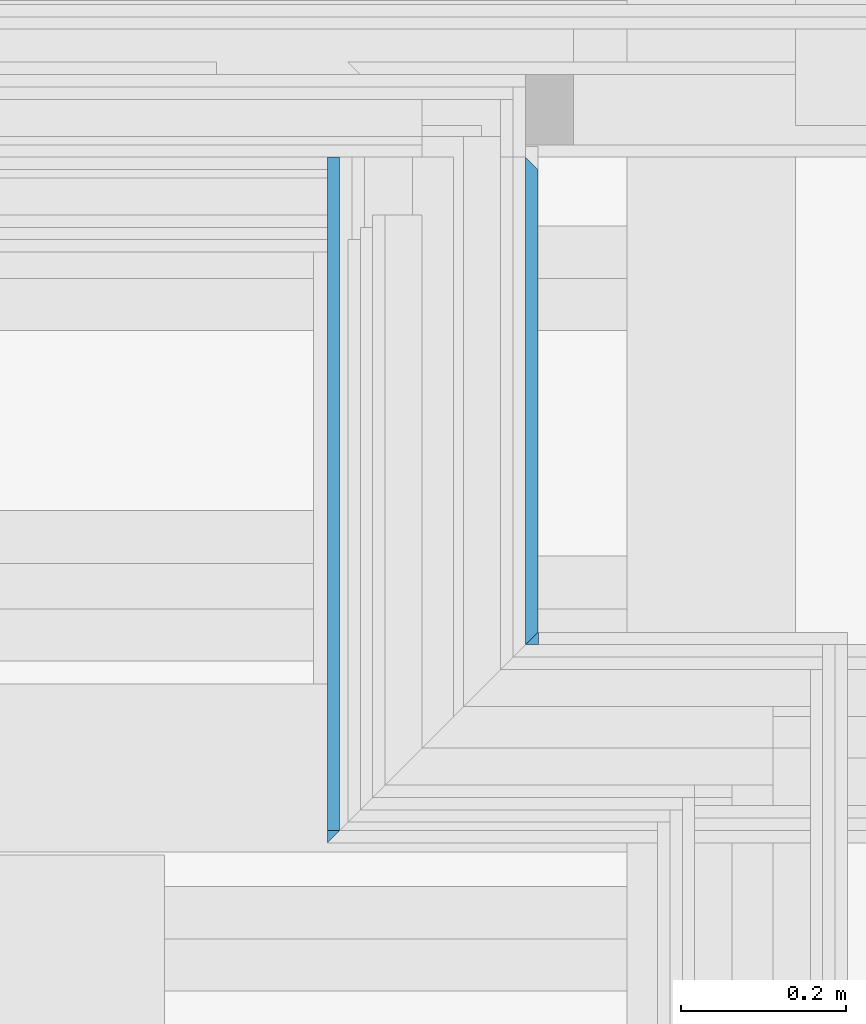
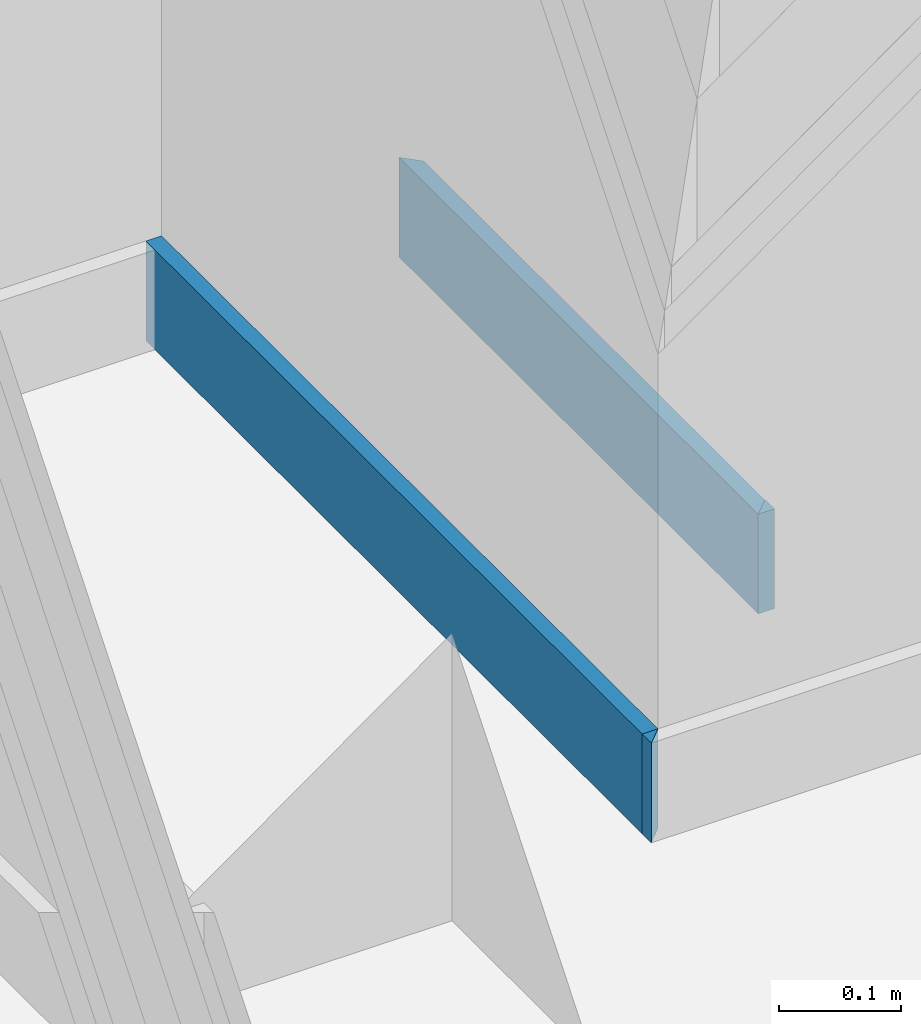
# One storey, part 68 of 183: 4 building element parts, 2 elements without a shape of their own.
"""IFC2X3 building model written with IfcOpenShell, lengths in metres."""

from ifc_helpers import new_model, entity, si_unit, converted_unit, derived_unit, money_unit, direction, frame, frame_2d, origin_with_axes, place, context, subcontext, project, spatial, polyline, rectangle, outline, extrude, material, type_object, element, aggregate, save


model = new_model("IFC2X3")

# Units and contexts
model_context = context("Model", 3, precision=1e-05, world=origin_with_axes(), true_north=direction((0.0, 1.0)))
body_context = subcontext(model_context, "Body", "Model", "MODEL_VIEW", scale=1.0)
ifc_project = project(units=[si_unit("LENGTHUNIT", "METRE"), si_unit("AREAUNIT", "SQUARE_METRE"), si_unit("VOLUMEUNIT", "CUBIC_METRE"), si_unit("ABSORBEDDOSEUNIT", "GRAY"), si_unit("AMOUNTOFSUBSTANCEUNIT", "MOLE"), si_unit("DOSEEQUIVALENTUNIT", "SIEVERT"), si_unit("ELECTRICCAPACITANCEUNIT", "FARAD"), si_unit("ELECTRICCHARGEUNIT", "COULOMB"), si_unit("ELECTRICCONDUCTANCEUNIT", "SIEMENS"), si_unit("ELECTRICCURRENTUNIT", "AMPERE"), si_unit("ELECTRICRESISTANCEUNIT", "OHM"), si_unit("ELECTRICVOLTAGEUNIT", "VOLT"), si_unit("ENERGYUNIT", "JOULE"), si_unit("FORCEUNIT", "NEWTON"), si_unit("FREQUENCYUNIT", "HERTZ"), si_unit("ILLUMINANCEUNIT", "LUX"), si_unit("INDUCTANCEUNIT", "HENRY"), si_unit("LUMINOUSFLUXUNIT", "LUMEN"), si_unit("LUMINOUSINTENSITYUNIT", "CANDELA"), si_unit("MAGNETICFLUXDENSITYUNIT", "TESLA"), si_unit("MAGNETICFLUXUNIT", "WEBER"), si_unit("MASSUNIT", "GRAM"), converted_unit("PLANEANGLEUNIT", "degree", entity("IfcReal", 0.0174532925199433), si_unit("PLANEANGLEUNIT", "RADIAN"), dimensions=[0, 0, 0, 0, 0, 0, 0]), si_unit("POWERUNIT", "WATT"), si_unit("PRESSUREUNIT", "PASCAL"), si_unit("RADIOACTIVITYUNIT", "BECQUEREL"), si_unit("SOLIDANGLEUNIT", "STERADIAN"), si_unit("THERMODYNAMICTEMPERATUREUNIT", "KELVIN"), si_unit("TIMEUNIT", "SECOND"), derived_unit("ACCELERATIONUNIT", [(si_unit("LENGTHUNIT", "METRE"), 1), (si_unit("TIMEUNIT", "SECOND"), -2)]), derived_unit("ANGULARVELOCITYUNIT", [(converted_unit("PLANEANGLEUNIT", "degree", entity("IfcReal", 0.0174532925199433), si_unit("PLANEANGLEUNIT", "RADIAN"), dimensions=[0, 0, 0, 0, 0, 0, 0]), 1), (si_unit("TIMEUNIT", "SECOND"), -1)]), derived_unit("CURVATUREUNIT", [(converted_unit("PLANEANGLEUNIT", "degree", entity("IfcReal", 0.0174532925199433), si_unit("PLANEANGLEUNIT", "RADIAN"), dimensions=[0, 0, 0, 0, 0, 0, 0]), 1), (si_unit("LENGTHUNIT", "METRE"), -1)]), derived_unit("DYNAMICVISCOSITYUNIT", [(si_unit("PRESSUREUNIT", "PASCAL"), 1), (si_unit("TIMEUNIT", "SECOND"), 1)]), derived_unit("HEATFLUXDENSITYUNIT", [(si_unit("POWERUNIT", "WATT"), 1), (si_unit("LENGTHUNIT", "METRE"), -2)]), derived_unit("HEATINGVALUEUNIT", [(si_unit("ENERGYUNIT", "JOULE"), 1), (si_unit("MASSUNIT", "GRAM"), -1)]), derived_unit("INTEGERCOUNTRATEUNIT", [(si_unit("TIMEUNIT", "SECOND"), -1)]), derived_unit("IONCONCENTRATIONUNIT", [(si_unit("MASSUNIT", "GRAM"), 1), (si_unit("VOLUMEUNIT", "CUBIC_METRE"), -1)]), derived_unit("ISOTHERMALMOISTURECAPACITYUNIT", [(si_unit("VOLUMEUNIT", "CUBIC_METRE"), 1), (si_unit("MASSUNIT", "GRAM"), -1)]), derived_unit("KINEMATICVISCOSITYUNIT", [(si_unit("AREAUNIT", "SQUARE_METRE"), 1), (si_unit("TIMEUNIT", "SECOND"), -1)]), derived_unit("LINEARFORCEUNIT", [(si_unit("FORCEUNIT", "NEWTON"), 1), (si_unit("LENGTHUNIT", "METRE"), -1)]), derived_unit("LINEARMOMENTUNIT", [(si_unit("FORCEUNIT", "NEWTON"), 1), (si_unit("LENGTHUNIT", "METRE"), -1)]), derived_unit("LINEARSTIFFNESSUNIT", [(si_unit("FORCEUNIT", "NEWTON"), 1), (si_unit("LENGTHUNIT", "METRE"), -1)]), derived_unit("LINEARVELOCITYUNIT", [(si_unit("LENGTHUNIT", "METRE"), 1), (si_unit("TIMEUNIT", "SECOND"), -1)]), derived_unit("LUMINOUSINTENSITYDISTRIBUTIONUNIT", [(si_unit("LUMINOUSINTENSITYUNIT", "CANDELA"), 1), (si_unit("LUMINOUSFLUXUNIT", "LUMEN"), -1)]), derived_unit("MASSDENSITYUNIT", [(si_unit("MASSUNIT", "GRAM"), 1), (si_unit("VOLUMEUNIT", "CUBIC_METRE"), -1)]), derived_unit("MASSFLOWRATEUNIT", [(si_unit("MASSUNIT", "GRAM"), 1), (si_unit("TIMEUNIT", "SECOND"), -1)]), derived_unit("MASSPERLENGTHUNIT", [(si_unit("MASSUNIT", "GRAM"), 1), (si_unit("LENGTHUNIT", "METRE"), -1)]), derived_unit("MODULUSOFELASTICITYUNIT", [(si_unit("FORCEUNIT", "NEWTON"), 1), (si_unit("AREAUNIT", "SQUARE_METRE"), -1)]), derived_unit("MODULUSOFLINEARSUBGRADEREACTIONUNIT", [(si_unit("FORCEUNIT", "NEWTON"), 1), (si_unit("LENGTHUNIT", "METRE"), -2)]), derived_unit("MODULUSOFROTATIONALSUBGRADEREACTIONUNIT", [(si_unit("FORCEUNIT", "NEWTON"), 1), (si_unit("LENGTHUNIT", "METRE"), 1)]), derived_unit("MODULUSOFSUBGRADEREACTIONUNIT", [(si_unit("FORCEUNIT", "NEWTON"), 1), (si_unit("VOLUMEUNIT", "CUBIC_METRE"), -1)]), derived_unit("MOISTUREDIFFUSIVITYUNIT", [(si_unit("VOLUMEUNIT", "CUBIC_METRE"), 1), (si_unit("TIMEUNIT", "SECOND"), -1)]), derived_unit("MOLECULARWEIGHTUNIT", [(si_unit("MASSUNIT", "GRAM"), 1), (si_unit("AMOUNTOFSUBSTANCEUNIT", "MOLE"), -1)]), derived_unit("PLANARFORCEUNIT", [(si_unit("FORCEUNIT", "NEWTON"), 1), (si_unit("LENGTHUNIT", "METRE"), -2)]), derived_unit("ROTATIONALFREQUENCYUNIT", [(si_unit("TIMEUNIT", "SECOND"), -1)]), derived_unit("ROTATIONALMASSUNIT", [(si_unit("MASSUNIT", "GRAM"), 1), (si_unit("LENGTHUNIT", "METRE"), 2)]), derived_unit("ROTATIONALSTIFFNESSUNIT", [(si_unit("FORCEUNIT", "NEWTON"), 1), (si_unit("LENGTHUNIT", "METRE"), 1), (converted_unit("PLANEANGLEUNIT", "degree", entity("IfcReal", 0.0174532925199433), si_unit("PLANEANGLEUNIT", "RADIAN"), dimensions=[0, 0, 0, 0, 0, 0, 0]), -1)]), derived_unit("SECTIONAREAINTEGRALUNIT", [(si_unit("LENGTHUNIT", "METRE"), 5)]), derived_unit("SECTIONMODULUSUNIT", [(si_unit("LENGTHUNIT", "METRE"), 3)]), derived_unit("SHEARMODULUSUNIT", [(si_unit("FORCEUNIT", "NEWTON"), 1), (si_unit("AREAUNIT", "SQUARE_METRE"), -1)]), derived_unit("SOUNDPOWERUNIT", [(si_unit("ENERGYUNIT", "JOULE"), 1), (si_unit("TIMEUNIT", "SECOND"), -1)]), derived_unit("SPECIFICHEATCAPACITYUNIT", [(si_unit("FORCEUNIT", "NEWTON"), 1), (si_unit("MASSUNIT", "GRAM"), -1), (si_unit("THERMODYNAMICTEMPERATUREUNIT", "KELVIN"), -1)]), derived_unit("TEMPERATUREGRADIENTUNIT", [(si_unit("THERMODYNAMICTEMPERATUREUNIT", "KELVIN"), 1), (si_unit("LENGTHUNIT", "METRE"), -1)]), derived_unit("THERMALADMITTANCEUNIT", [(si_unit("POWERUNIT", "WATT"), 1), (si_unit("AREAUNIT", "SQUARE_METRE"), -1), (si_unit("THERMODYNAMICTEMPERATUREUNIT", "KELVIN"), -1)]), derived_unit("THERMALCONDUCTANCEUNIT", [(si_unit("POWERUNIT", "WATT"), 1), (si_unit("LENGTHUNIT", "METRE"), -1), (si_unit("THERMODYNAMICTEMPERATUREUNIT", "KELVIN"), -1)]), derived_unit("THERMALEXPANSIONCOEFFICIENTUNIT", [(si_unit("THERMODYNAMICTEMPERATUREUNIT", "KELVIN"), -1)]), derived_unit("THERMALRESISTANCEUNIT", [(si_unit("AREAUNIT", "SQUARE_METRE"), 1), (si_unit("POWERUNIT", "WATT"), -1)]), derived_unit("THERMALTRANSMITTANCEUNIT", [(si_unit("POWERUNIT", "WATT"), 1), (si_unit("AREAUNIT", "SQUARE_METRE"), -1), (si_unit("THERMODYNAMICTEMPERATUREUNIT", "KELVIN"), -1)]), derived_unit("TORQUEUNIT", [(si_unit("FORCEUNIT", "NEWTON"), 1), (si_unit("LENGTHUNIT", "METRE"), 1)]), derived_unit("VAPORPERMEABILITYUNIT", [(si_unit("MASSUNIT", "GRAM"), 1), (si_unit("TIMEUNIT", "SECOND"), -1)]), derived_unit("VOLUMETRICFLOWRATEUNIT", [(si_unit("VOLUMEUNIT", "CUBIC_METRE"), 1), (si_unit("TIMEUNIT", "SECOND"), -1)]), derived_unit("WARPINGCONSTANTUNIT", [(si_unit("LENGTHUNIT", "METRE"), 6)]), derived_unit("WARPINGMOMENTUNIT", [(si_unit("FORCEUNIT", "NEWTON"), 1), (si_unit("LENGTHUNIT", "METRE"), 2)]), money_unit("GBP")], contexts=[model_context])

# Site, building, storey
site_placement = place(None, origin_with_axes())
site = spatial("IfcSite", under=ifc_project, at=site_placement, Name="Site", CompositionType="ELEMENT")
building_placement = place(site_placement, origin_with_axes())
building = spatial("IfcBuilding", under=site, at=building_placement, Name="Building01", CompositionType="ELEMENT")
storey_placement = place(building_placement, frame((0.0, 0.0, 5.15), z_axis=(0.0, 0.0, 1.0), x_axis=(1.0, 0.0, 0.0)))
storey = spatial("IfcBuildingStorey", under=building, at=storey_placement, Name="1F", CompositionType="ELEMENT", Elevation=5.15)

# Wall, building element part
wall_type = type_object("IfcWallType", Name="SHE_A-Walls_Type01c_Partywall_225mm_twin_tall", PredefinedType="NOTDEFINED")
wall_1_placement = place(storey_placement, frame((12.288, 4.302428, 0.0), z_axis=(0.0, 0.0, 1.0), x_axis=(1.0, 0.0, 0.0)))
wall_1 = element("IfcWall", 1, at=wall_1_placement, inside=storey, type_object=wall_type, Name="1C", ObjectType="SHE_A-Walls_Type01c_Partywall_225mm_twin_tall")
ifc_material = material(Name="A_BSUK_Walls_Timber")
building_element_part_1_placement = place(wall_1_placement, origin_with_axes())
building_element_part_1 = element("IfcBuildingElementPart", 2, at=building_element_part_1_placement, material=ifc_material, Name="9", context=body_context, shape_type="SweptSolid", body=[
    extrude(outline(polyline([(0.102, 0.102), (0.087, 0.087), (0.102549, 0.087), (0.102549, 0.102), (0.102, 0.102)])), frame((0.0, 0.0, 0.015), z_axis=(0.0, 0.0, 1.0), x_axis=(1.0, 0.0, 0.0)), (0.0, 0.0, 1.0), 0.1),
])
aggregate(wall_1, [building_element_part_1])

# Wall, building element parts
wall_2_placement = place(storey_placement, frame((12.288, 4.98, 0.0), z_axis=(0.0, 0.0, 1.0), x_axis=(0.0, -1.0, 0.0)))
wall_2 = element("IfcWall", 3, at=wall_2_placement, inside=storey, type_object=wall_type, Name="1C", ObjectType="SHE_A-Walls_Type01c_Partywall_225mm_twin_tall")
placement = place(wall_2_placement, origin_with_axes())
building_element_part_2 = element("IfcBuildingElementPart", 4, at=placement, material=ifc_material, Name="1", context=body_context, shape_type="SweptSolid", body=[
    extrude(rectangle(XDim=0.815572, YDim=0.015, at=frame_2d((0.407786, -0.1455), x_axis=(-1.0, 0.0))), frame((0.0, 0.0, 0.015), z_axis=(0.0, 0.0, 1.0), x_axis=(1.0, 0.0, 0.0)), (0.0, 0.0, 1.0), 0.1),
])
building_element_part_3 = element("IfcBuildingElementPart", 5, at=placement, material=ifc_material, Name="2", context=body_context, shape_type="SweptSolid", body=[
    extrude(outline(polyline([(0.815572, -0.138), (0.815557, -0.138), (0.815557, -0.153), (0.830572, -0.153), (0.815572, -0.138)])), frame((0.0, 0.0, 0.015), z_axis=(0.0, 0.0, 1.0), x_axis=(1.0, 0.0, 0.0)), (0.0, 0.0, 1.0), 0.1),
])
building_element_part_4 = element("IfcBuildingElementPart", 6, at=placement, material=ifc_material, Name="10", context=body_context, shape_type="SweptSolid", body=[
    extrude(outline(polyline([(0.575572, 0.102), (0.015, 0.102), (0.0, 0.087), (0.590572, 0.087), (0.575572, 0.102)])), frame((0.0, 0.0, 0.015), z_axis=(0.0, 0.0, 1.0), x_axis=(1.0, 0.0, 0.0)), (0.0, 0.0, 1.0), 0.1),
])
aggregate(wall_2, [building_element_part_2, building_element_part_3, building_element_part_4])

save(model, "model.ifc")
